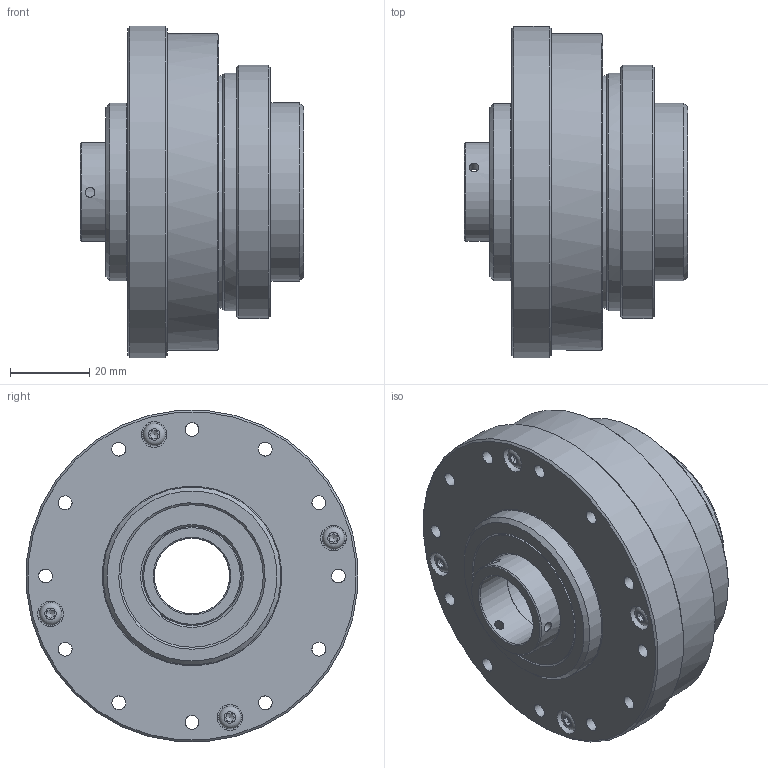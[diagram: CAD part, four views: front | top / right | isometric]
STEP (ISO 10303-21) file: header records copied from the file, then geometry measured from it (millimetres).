
FILE_DESCRIPTION(/* description */ (''),/* implementation_level */ '2;1');
FILE_NAME(/* name */ '\\Hiwin.tw\dfs\TB00F\研發課二組\\X2\6A5F5BC67D1A\X0\\1.設計\01-DT\DT-圖面\2.\X2\7D4454085716\X0\\模型\DGH-AH\DGH-17-AH\DGH-17-XX-AH_v2.stp',/* time_stamp */ '2024-09-26T14:38:08+08:00',/* author */ ('chiayu.chen'),/* organization */ (''),/* preprocessor_version */ 'ST-DEVELOPER v15.2',/* originating_system */ 'Autodesk Inventor 2014',/* authorisation */ '');
FILE_SCHEMA (('AUTOMOTIVE_DESIGN { 1 0 10303 214 3 1 1 }'));
Length unit declared in the file: centimetre
Products named in the file (1): AK000331
Bounding box: 56.5 x 83.68 x 83.68 mm (x, y, z)
Volume: 163778 mm3; surface area: 33301.5 mm2
Topology: 1 solids, 9 shells, 263 faces, 606 edges, 402 vertices
Faces by surface type: plane 107, cylinder 89, cone 53, torus 14
Full cylindrical faces by diameter (mm): 2.459 x23, 3 x4, 3.5 x32, 5.5 x4, 5.7 x4, 6.5 x8, 19 x2, 19.5 x1, 25 x2, 36 x1, 36.2 x1, 45 x2, 59 x1, 60 x1, 64 x1, 80 x1, 84 x1
Entity records: 6371 total; most frequent: CARTESIAN_POINT 1234, DIRECTION 1048, ORIENTED_EDGE 724, EDGE_LOOP 500, AXIS2_PLACEMENT_3D 476, EDGE_CURVE 362, VERTEX_POINT 314, FACE_BOUND 273
